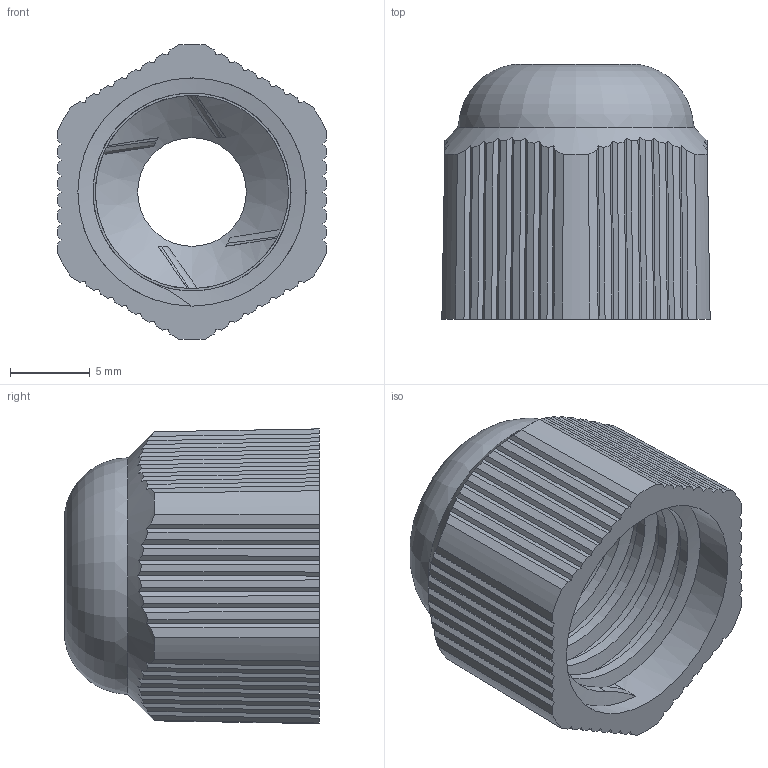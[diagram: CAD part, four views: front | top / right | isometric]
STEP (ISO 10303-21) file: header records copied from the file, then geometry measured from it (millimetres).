
FILE_DESCRIPTION (( 'STEP AP203' ), '1' );
FILE_NAME ('Ãàéêà öàíãîâàÿ (PG7).STEP', '2020-08-06T09:25:11', ( '' ), ( '' ), 'SwSTEP 2.0', 'SolidWorks 2019', '' );
FILE_SCHEMA (( 'CONFIG_CONTROL_DESIGN' ));
Length unit declared in the file: millimetre
Products named in the file (1): Ãàéêà öàíãîâàÿ (PG7)
Bounding box: 16.8 x 15.96 x 18.49 mm (x, y, z)
Volume: 1387.4 mm3; surface area: 2045 mm2
Topology: 1 solids, 1 shells, 174 faces, 510 edges, 338 vertices
Faces by surface type: plane 143, cone 12, cylinder 10, bspline 7, torus 2
Full cylindrical faces by diameter (mm): 6.8 x1, 12.1 x1, 14.3 x5
Entity records: 6969 total; most frequent: CARTESIAN_POINT 2827, ORIENTED_EDGE 970, DIRECTION 653, EDGE_CURVE 485, VERTEX_POINT 325, LINE 271, VECTOR 271, AXIS2_PLACEMENT_3D 191
